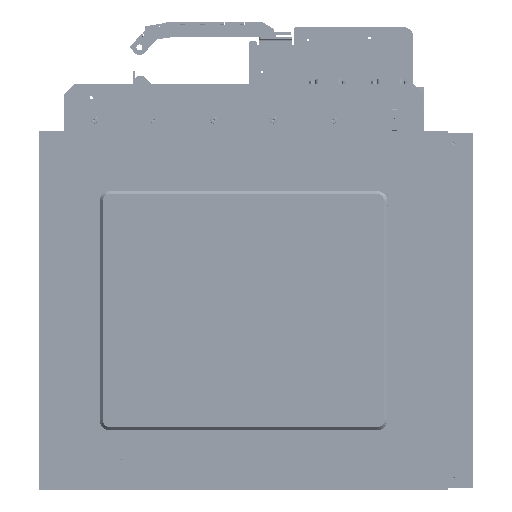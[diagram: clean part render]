
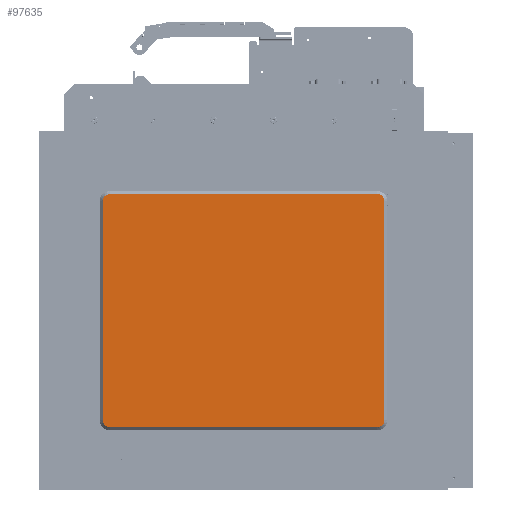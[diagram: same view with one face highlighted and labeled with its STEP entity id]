
A CAD part, top view. The second image highlights one B-rep face of the part: STEP entity #97635.
In plain terms, the highlighted planar face has unit normal (0, 0, 1).
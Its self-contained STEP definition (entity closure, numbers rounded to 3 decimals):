
#8680=FACE_OUTER_BOUND('',#14777,.T.);
#14777=EDGE_LOOP('',(#84336,#84337,#84338,#84339,#84340,#84341,#84342,#84343));
#18603=CIRCLE('',#106806,7.);
#18604=CIRCLE('',#106808,7.);
#18605=CIRCLE('',#106812,7.);
#18608=CIRCLE('',#106816,7.);
#27259=LINE('',#163942,#35925);
#27264=LINE('',#163956,#35930);
#27267=LINE('',#163961,#35933);
#27271=LINE('',#163976,#35937);
#35925=VECTOR('',#133125,10.);
#35930=VECTOR('',#133140,10.);
#35933=VECTOR('',#133145,10.);
#35937=VECTOR('',#133163,10.);
#44927=VERTEX_POINT('',#163939);
#44928=VERTEX_POINT('',#163941);
#44929=VERTEX_POINT('',#163945);
#44930=VERTEX_POINT('',#163949);
#44932=VERTEX_POINT('',#163954);
#44933=VERTEX_POINT('',#163959);
#44935=VERTEX_POINT('',#163964);
#44936=VERTEX_POINT('',#163969);
#58054=EDGE_CURVE('',#44927,#44928,#27259,.T.);
#58057=EDGE_CURVE('',#44929,#44927,#18603,.T.);
#58059=EDGE_CURVE('',#44928,#44930,#18604,.T.);
#58061=EDGE_CURVE('',#44932,#44929,#27264,.T.);
#58064=EDGE_CURVE('',#44930,#44933,#27267,.T.);
#58066=EDGE_CURVE('',#44935,#44932,#18605,.T.);
#58070=EDGE_CURVE('',#44933,#44936,#18608,.T.);
#58072=EDGE_CURVE('',#44936,#44935,#27271,.T.);
#84336=ORIENTED_EDGE('',*,*,#58054,.F.);
#84337=ORIENTED_EDGE('',*,*,#58057,.F.);
#84338=ORIENTED_EDGE('',*,*,#58061,.F.);
#84339=ORIENTED_EDGE('',*,*,#58066,.F.);
#84340=ORIENTED_EDGE('',*,*,#58072,.F.);
#84341=ORIENTED_EDGE('',*,*,#58070,.F.);
#84342=ORIENTED_EDGE('',*,*,#58064,.F.);
#84343=ORIENTED_EDGE('',*,*,#58059,.F.);
#87558=PLANE('',#106820);
#97635=ADVANCED_FACE('',(#8680),#87558,.T.);
#106806=AXIS2_PLACEMENT_3D('',#163947,#133130,#133131);
#106808=AXIS2_PLACEMENT_3D('',#163951,#133135,#133136);
#106812=AXIS2_PLACEMENT_3D('',#163966,#133149,#133150);
#106816=AXIS2_PLACEMENT_3D('',#163973,#133158,#133159);
#106820=AXIS2_PLACEMENT_3D('',#163981,#133170,#133171);
#133125=DIRECTION('',(0.,1.,0.));
#133130=DIRECTION('center_axis',(0.,0.,-1.));
#133131=DIRECTION('ref_axis',(-0.707,-0.707,0.));
#133135=DIRECTION('center_axis',(0.,0.,-1.));
#133136=DIRECTION('ref_axis',(-0.707,0.707,0.));
#133140=DIRECTION('',(-1.,0.,0.));
#133145=DIRECTION('',(1.,0.,0.));
#133149=DIRECTION('center_axis',(0.,0.,-1.));
#133150=DIRECTION('ref_axis',(0.707,-0.707,0.));
#133158=DIRECTION('center_axis',(0.,0.,-1.));
#133159=DIRECTION('ref_axis',(0.707,0.707,0.));
#133163=DIRECTION('',(0.,-1.,0.));
#133170=DIRECTION('center_axis',(0.,0.,1.));
#133171=DIRECTION('ref_axis',(1.,0.,0.));
#163939=CARTESIAN_POINT('',(3.,10.,8.));
#163941=CARTESIAN_POINT('',(3.,230.,8.));
#163942=CARTESIAN_POINT('',(3.,60.,8.));
#163945=CARTESIAN_POINT('',(10.,3.,8.));
#163947=CARTESIAN_POINT('Origin',(10.,10.,8.));
#163949=CARTESIAN_POINT('',(10.,237.,8.));
#163951=CARTESIAN_POINT('Origin',(10.,230.,8.));
#163954=CARTESIAN_POINT('',(279.,3.,8.));
#163956=CARTESIAN_POINT('',(216.75,3.,8.));
#163959=CARTESIAN_POINT('',(279.,237.,8.));
#163961=CARTESIAN_POINT('',(72.25,237.,8.));
#163964=CARTESIAN_POINT('',(286.,10.,8.));
#163966=CARTESIAN_POINT('Origin',(279.,10.,8.));
#163969=CARTESIAN_POINT('',(286.,230.,8.));
#163973=CARTESIAN_POINT('Origin',(279.,230.,8.));
#163976=CARTESIAN_POINT('',(286.,180.,8.));
#163981=CARTESIAN_POINT('Origin',(144.5,120.,8.));
